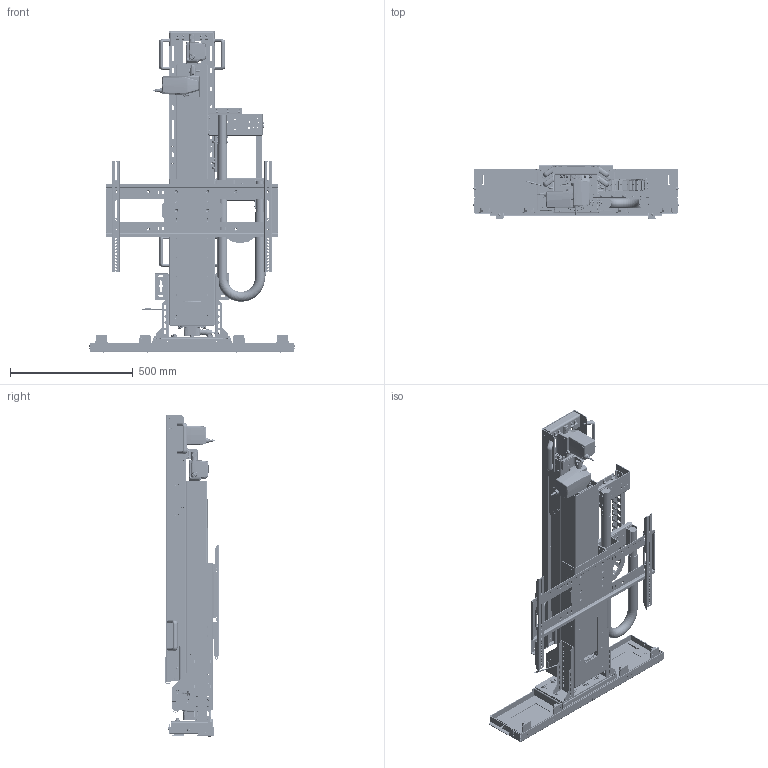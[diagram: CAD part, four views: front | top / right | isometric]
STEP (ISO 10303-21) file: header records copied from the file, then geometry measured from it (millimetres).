
FILE_DESCRIPTION(/* description */ ('STEP AP242','CAx-IF Rec.Pracs.---Representation and Presentation of Product Manufacturing Information (PMI)---4.0---2014-10-13','CAx-IF Rec.Pracs.---3D Tessellated Geometry---0.4---2014-09-14','2;1'),/* implementation_level */ '2;1');
FILE_NAME(/* name */ '64b01ad61b8c9b31e18c7b1a',/* time_stamp */ '2023-07-13T15:40:20Z',/* author */ (''),/* organization */ (''),/* preprocessor_version */ 'ST-DEVELOPER v19.4',/* originating_system */ ' ',/* authorisation */ ' ');
FILE_SCHEMA (('AP242_MANAGED_MODEL_BASED_3D_ENGINEERING_MIM_LF { 1 0 10303 442 1 1 4 }'));
Products named in the file (247): L-77ix Main Assm; Socket button head screw M6x1 x 12; Hex socket countersunk head screw M6x1 x 12; Socket button head screw M4x0.7 x 6; L-77i Snakeskin; OPU-NX-002 -- L77OPU Lid Support w/ PEMs <1>; PEM CLS-M6-00  ; ULS-NX-038 -- ULS HD LID SUPPORT SHORT; CMB2 Asm (1) <1>; PEM CLS-M6-1; CMB4; PEM Nut CLSS-M5-1; CMB5 Asm (3) <1>; PEM Nut F-M4-2; CMB5; CMB2; HD-22FMMT (1) <1>; GASKET-22_GASKET-22_08; SCREWS-SS7-8_SCREWS-SS7-8_2; HD-22xC_HD-22CMBT; HD-22B_HD-22BFMB; Socket Button M4_8; Cable Gland 01; DS1; Second Stage Sub Assm <1>; M6x12 Button Socket Cap; IGUS Guide Rail Second Stage; M5_12 Button Socket Cap; Flat-Head Quick-Release Pins MC PN90156A619; M5 Split Lock Washer; M6x20 Low Head Socket Cap; Second Stage Front Fixture Mount; Second Stage Column; M6 x12 Flathead Bolt; OPU Screen Support Mount Plate; L31 Piston; M6 Split Lock Washer; L-77i Cable Chain Assm <1>; 0_976m_Z14_3_075_0___114_3_12P_A1_5; Socket Button M6_12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
Assembly tree (900 placements, depth 5):
  L-77ix Main Assm
    Socket button head screw M6x1 x 12  x16
    Hex socket countersunk head screw M6x1 x 12  x8
    Socket button head screw M4x0.7 x 6  x8
    L-77i Snakeskin
    OPU-NX-002 -- L77OPU Lid Support w/ PEMs <1>
      PEM CLS-M6-00    x2
      ULS-NX-038 -- ULS HD LID SUPPORT SHORT
    CMB2 Asm (1) <1>
      PEM CLS-M6-1  x4
      CMB4
      PEM Nut CLSS-M5-1  x2
      CMB5 Asm (3) <1>
        PEM Nut F-M4-2  x4
        CMB5
      PEM Nut F-M4-2
      CMB2
    HD-22FMMT (1) <1>
      GASKET-22_GASKET-22_08
      SCREWS-SS7-8_SCREWS-SS7-8_2  x4
      HD-22xC_HD-22CMBT
      HD-22B_HD-22BFMB
      Socket Button M4_8  x4
      HD-22xC_HD-22CMBT
      Cable Gland 01
      HD-22xC_HD-22CMBT
      HD-22xC_HD-22CMBT
      DS1
      Cable Gland 01
      HD-22B_HD-22BFMB
      HD-22xC_HD-22CMBT
    Second Stage Sub Assm <1>
      M6x12 Button Socket Cap  x6
      PEM CLS-M6-1  x2
      IGUS Guide Rail Second Stage  x2
      M5_12 Button Socket Cap  x14
      Flat-Head Quick-Release Pins MC PN90156A619
      M5 Split Lock Washer  x14
      M6x20 Low Head Socket Cap  x2
      Second Stage Front Fixture Mount
      Second Stage Column
      M6 x12 Flathead Bolt  x4
      OPU Screen Support Mount Plate
      L31 Piston
      M6 Split Lock Washer  x2
      L31 Piston
    L-77i Cable Chain Assm <1>
      0_976m_Z14_3_075_0___114_3_12P_A1_5
      0_976m_Z14_3_075_0___114_3_12P_A1_5
      0_976m_Z14_3_075_0___114_3_12P_A1_5
      0_976m_Z14_3_075_0___114_3_12P_A1_5
      0_976m_Z14_3_075_0___114_3_12P_A1_5
      0_976m_Z14_3_075_0___114_3_12P_A1_5
      0_976m_Z14_3_075_0___114_3_12P_A1_5
      0_976m_Z14_3_075_0___114_3_12P_A1_5
      0_976m_Z14_3_075_0___114_3_12P_A1_5
      0_976m_Z14_3_075_0___114_3_12P_A1_5
      0_976m_Z14_3_075_0___114_3_12P_A1_5
      0_976m_Z14_3_075_0___114_3_12P_A1_5
      0_976m_Z14_3_075_0___114_3_12P_A1_5
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Bounding box: 834.88 x 220.19 x 1306.87 mm (x, y, z)
Volume: 18154310.7 mm3; surface area: 7193420.5 mm2
Topology: 848 solids, 866 shells, 27626 faces, 69585 edges, 45270 vertices
Faces by surface type: plane 15946, cylinder 6444, bspline 2136, cone 1585, torus 1353, sphere 162
Full cylindrical faces by diameter (mm): 0.2 x16, 0.512 x16, 0.55 x16, 0.914 x3, 1.016 x3, 1.041 x1, 1.194 x2, 1.208 x1, 1.32 x2, 1.499 x1, 1.524 x6, 1.552 x1, 1.6 x3, 1.956 x8, 2.007 x1, 2.088 x4, 2.2 x1, 2.235 x2, 2.261 x4, 2.5 x22, 2.642 x4, 2.8 x16, 2.845 x4, 3 x48, 3.048 x2, 3.175 x7, 3.3 x8, 3.4 x12, 3.505 x7, 3.658 x4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
Entity records: 450602 total; most frequent: CARTESIAN_POINT 185396, ORIENTED_EDGE 52534, DIRECTION 50896, EDGE_CURVE 26388, AXIS2_PLACEMENT_3D 18311, VERTEX_POINT 17807, LINE 14274, VECTOR 14274
